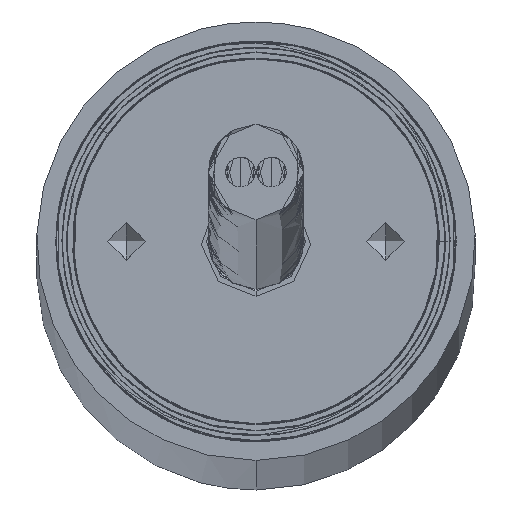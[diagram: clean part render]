
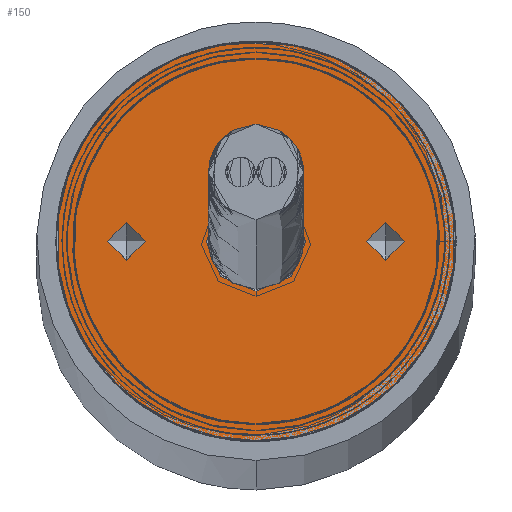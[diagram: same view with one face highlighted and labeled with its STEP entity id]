
A CAD part, top view. The second image highlights one B-rep face of the part: STEP entity #150.
In plain terms, the highlighted planar face has unit normal (0, 0, 1) as drawn and (0, 1, 0) by its records, which use the part's own axes.
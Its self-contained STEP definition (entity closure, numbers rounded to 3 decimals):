
#36=FACE_BOUND('',#385,.T.);
#37=FACE_BOUND('',#386,.T.);
#38=FACE_BOUND('',#387,.T.);
#150=ADVANCED_FACE('',(#264,#36,#37,#38),#1679,.T.);
#264=FACE_OUTER_BOUND('',#384,.T.);
#384=EDGE_LOOP('',(#822,#823));
#385=EDGE_LOOP('',(#824,#825));
#386=EDGE_LOOP('',(#826,#827));
#387=EDGE_LOOP('',(#828,#829));
#822=ORIENTED_EDGE('',*,*,#1168,.F.);
#823=ORIENTED_EDGE('',*,*,#1165,.F.);
#824=ORIENTED_EDGE('',*,*,#1124,.T.);
#825=ORIENTED_EDGE('',*,*,#1203,.T.);
#826=ORIENTED_EDGE('',*,*,#1128,.T.);
#827=ORIENTED_EDGE('',*,*,#1202,.T.);
#828=ORIENTED_EDGE('',*,*,#1134,.T.);
#829=ORIENTED_EDGE('',*,*,#1200,.T.);
#1124=EDGE_CURVE('',#1605,#1604,#1436,.T.);
#1128=EDGE_CURVE('',#1609,#1608,#1438,.T.);
#1134=EDGE_CURVE('',#1614,#1613,#1440,.T.);
#1165=EDGE_CURVE('',#1648,#1649,#1450,.T.);
#1168=EDGE_CURVE('',#1649,#1648,#1452,.T.);
#1200=EDGE_CURVE('',#1613,#1614,#1478,.T.);
#1202=EDGE_CURVE('',#1608,#1609,#1480,.T.);
#1203=EDGE_CURVE('',#1604,#1605,#1481,.T.);
#1436=(
BOUNDED_CURVE()
B_SPLINE_CURVE(2,(#6660,#6661,#6662,#6663,#6664),.UNSPECIFIED.,.F.,.F.)
B_SPLINE_CURVE_WITH_KNOTS((3,2,3),(-7.854,-3.927,
0.),.UNSPECIFIED.)
CURVE()
GEOMETRIC_REPRESENTATION_ITEM()
RATIONAL_B_SPLINE_CURVE((1.,0.707,1.,0.707,1.))
REPRESENTATION_ITEM('')
);
#1438=(
BOUNDED_CURVE()
B_SPLINE_CURVE(2,(#6674,#6675,#6676,#6677,#6678),.UNSPECIFIED.,.F.,.F.)
B_SPLINE_CURVE_WITH_KNOTS((3,2,3),(-2.985,-1.492,0.),
 .UNSPECIFIED.)
CURVE()
GEOMETRIC_REPRESENTATION_ITEM()
RATIONAL_B_SPLINE_CURVE((1.,0.707,1.,0.707,1.))
REPRESENTATION_ITEM('')
);
#1440=(
BOUNDED_CURVE()
B_SPLINE_CURVE(2,(#6692,#6693,#6694,#6695,#6696),.UNSPECIFIED.,.F.,.F.)
B_SPLINE_CURVE_WITH_KNOTS((3,2,3),(-2.985,-1.492,0.),
 .UNSPECIFIED.)
CURVE()
GEOMETRIC_REPRESENTATION_ITEM()
RATIONAL_B_SPLINE_CURVE((1.,0.707,1.,0.707,1.))
REPRESENTATION_ITEM('')
);
#1450=(
BOUNDED_CURVE()
B_SPLINE_CURVE(2,(#6782,#6783,#6784,#6785,#6786),.UNSPECIFIED.,.F.,.F.)
B_SPLINE_CURVE_WITH_KNOTS((3,2,3),(0.,15.708,31.416),
 .UNSPECIFIED.)
CURVE()
GEOMETRIC_REPRESENTATION_ITEM()
RATIONAL_B_SPLINE_CURVE((1.,0.707,1.,0.707,1.))
REPRESENTATION_ITEM('')
);
#1452=(
BOUNDED_CURVE()
B_SPLINE_CURVE(2,(#6794,#6795,#6796,#6797,#6798),.UNSPECIFIED.,.F.,.F.)
B_SPLINE_CURVE_WITH_KNOTS((3,2,3),(0.,15.708,31.416),
 .UNSPECIFIED.)
CURVE()
GEOMETRIC_REPRESENTATION_ITEM()
RATIONAL_B_SPLINE_CURVE((1.,0.707,1.,0.707,1.))
REPRESENTATION_ITEM('')
);
#1478=(
BOUNDED_CURVE()
B_SPLINE_CURVE(2,(#7092,#7093,#7094,#7095,#7096),.UNSPECIFIED.,.F.,.F.)
B_SPLINE_CURVE_WITH_KNOTS((3,2,3),(-2.985,-1.492,0.),
 .UNSPECIFIED.)
CURVE()
GEOMETRIC_REPRESENTATION_ITEM()
RATIONAL_B_SPLINE_CURVE((1.,0.707,1.,0.707,1.))
REPRESENTATION_ITEM('')
);
#1480=(
BOUNDED_CURVE()
B_SPLINE_CURVE(2,(#7102,#7103,#7104,#7105,#7106),.UNSPECIFIED.,.F.,.F.)
B_SPLINE_CURVE_WITH_KNOTS((3,2,3),(-2.985,-1.492,0.),
 .UNSPECIFIED.)
CURVE()
GEOMETRIC_REPRESENTATION_ITEM()
RATIONAL_B_SPLINE_CURVE((1.,0.707,1.,0.707,1.))
REPRESENTATION_ITEM('')
);
#1481=(
BOUNDED_CURVE()
B_SPLINE_CURVE(2,(#7107,#7108,#7109,#7110,#7111),.UNSPECIFIED.,.F.,.F.)
B_SPLINE_CURVE_WITH_KNOTS((3,2,3),(-7.854,-3.927,
0.),.UNSPECIFIED.)
CURVE()
GEOMETRIC_REPRESENTATION_ITEM()
RATIONAL_B_SPLINE_CURVE((1.,0.707,1.,0.707,1.))
REPRESENTATION_ITEM('')
);
#1604=VERTEX_POINT('',#6603);
#1605=VERTEX_POINT('',#6604);
#1608=VERTEX_POINT('',#6607);
#1609=VERTEX_POINT('',#6608);
#1613=VERTEX_POINT('',#6612);
#1614=VERTEX_POINT('',#6613);
#1648=VERTEX_POINT('',#6647);
#1649=VERTEX_POINT('',#6648);
#1679=PLANE('',#1900);
#1900=AXIS2_PLACEMENT_3D('',#6087,#1938,$);
#1938=DIRECTION('',(0.,1.,0.));
#6087=CARTESIAN_POINT('',(-12.,1.2,-12.));
#6603=CARTESIAN_POINT('',(0.,1.2,-2.5));
#6604=CARTESIAN_POINT('',(0.,1.2,2.5));
#6607=CARTESIAN_POINT('',(-6.5,1.2,-0.95));
#6608=CARTESIAN_POINT('',(-6.5,1.2,0.95));
#6612=CARTESIAN_POINT('',(6.5,1.2,-0.95));
#6613=CARTESIAN_POINT('',(6.5,1.2,0.95));
#6647=CARTESIAN_POINT('',(0.,1.2,-10.));
#6648=CARTESIAN_POINT('',(0.,1.2,10.));
#6660=CARTESIAN_POINT('',(0.,1.2,2.5));
#6661=CARTESIAN_POINT('',(-2.5,1.2,2.5));
#6662=CARTESIAN_POINT('',(-2.5,1.2,0.));
#6663=CARTESIAN_POINT('',(-2.5,1.2,-2.5));
#6664=CARTESIAN_POINT('',(0.,1.2,-2.5));
#6674=CARTESIAN_POINT('',(-6.5,1.2,0.95));
#6675=CARTESIAN_POINT('',(-7.45,1.2,0.95));
#6676=CARTESIAN_POINT('',(-7.45,1.2,0.));
#6677=CARTESIAN_POINT('',(-7.45,1.2,-0.95));
#6678=CARTESIAN_POINT('',(-6.5,1.2,-0.95));
#6692=CARTESIAN_POINT('',(6.5,1.2,0.95));
#6693=CARTESIAN_POINT('',(5.55,1.2,0.95));
#6694=CARTESIAN_POINT('',(5.55,1.2,0.));
#6695=CARTESIAN_POINT('',(5.55,1.2,-0.95));
#6696=CARTESIAN_POINT('',(6.5,1.2,-0.95));
#6782=CARTESIAN_POINT('',(0.,1.2,-10.));
#6783=CARTESIAN_POINT('',(10.,1.2,-10.));
#6784=CARTESIAN_POINT('',(10.,1.2,0.));
#6785=CARTESIAN_POINT('',(10.,1.2,10.));
#6786=CARTESIAN_POINT('',(0.,1.2,10.));
#6794=CARTESIAN_POINT('',(0.,1.2,10.));
#6795=CARTESIAN_POINT('',(-10.,1.2,10.));
#6796=CARTESIAN_POINT('',(-10.,1.2,0.));
#6797=CARTESIAN_POINT('',(-10.,1.2,-10.));
#6798=CARTESIAN_POINT('',(0.,1.2,-10.));
#7092=CARTESIAN_POINT('',(6.5,1.2,-0.95));
#7093=CARTESIAN_POINT('',(7.45,1.2,-0.95));
#7094=CARTESIAN_POINT('',(7.45,1.2,0.));
#7095=CARTESIAN_POINT('',(7.45,1.2,0.95));
#7096=CARTESIAN_POINT('',(6.5,1.2,0.95));
#7102=CARTESIAN_POINT('',(-6.5,1.2,-0.95));
#7103=CARTESIAN_POINT('',(-5.55,1.2,-0.95));
#7104=CARTESIAN_POINT('',(-5.55,1.2,0.));
#7105=CARTESIAN_POINT('',(-5.55,1.2,0.95));
#7106=CARTESIAN_POINT('',(-6.5,1.2,0.95));
#7107=CARTESIAN_POINT('',(0.,1.2,-2.5));
#7108=CARTESIAN_POINT('',(2.5,1.2,-2.5));
#7109=CARTESIAN_POINT('',(2.5,1.2,0.));
#7110=CARTESIAN_POINT('',(2.5,1.2,2.5));
#7111=CARTESIAN_POINT('',(0.,1.2,2.5));
